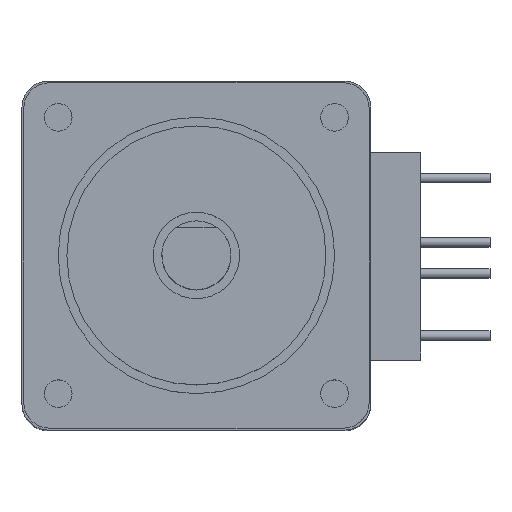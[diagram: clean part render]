
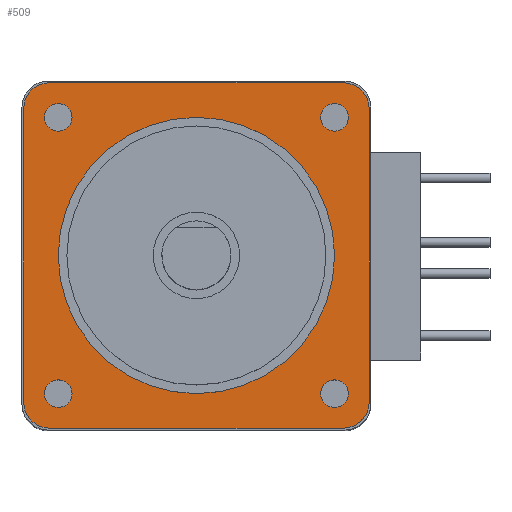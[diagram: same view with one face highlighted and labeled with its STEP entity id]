
A CAD part, top view. The second image highlights one B-rep face of the part: STEP entity #509.
In plain terms, the highlighted planar face has unit normal (0, 0, 1).
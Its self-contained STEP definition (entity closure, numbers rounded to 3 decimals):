
#200=PLANE('',#3386);
#509=ADVANCED_FACE('',(#721,#722,#723,#724,#725,#726),#200,.F.);
#721=FACE_BOUND('',#832,.T.);
#722=FACE_BOUND('',#833,.T.);
#723=FACE_BOUND('',#834,.T.);
#724=FACE_BOUND('',#835,.T.);
#725=FACE_BOUND('',#836,.T.);
#726=FACE_BOUND('',#837,.T.);
#832=EDGE_LOOP('',(#1250));
#833=EDGE_LOOP('',(#1251));
#834=EDGE_LOOP('',(#1252));
#835=EDGE_LOOP('',(#1253));
#836=EDGE_LOOP('',(#1254,#1255,#1256,#1257,#1258,#1259,#1260,#1261));
#837=EDGE_LOOP('',(#1262));
#1045=CIRCLE('',#3354,1.5);
#1047=CIRCLE('',#3359,1.5);
#1056=CIRCLE('',#3375,8.);
#1058=CIRCLE('',#3380,0.8);
#1059=CIRCLE('',#3381,0.8);
#1060=CIRCLE('',#3382,0.8);
#1061=CIRCLE('',#3383,0.8);
#1062=CIRCLE('',#3384,1.5);
#1063=CIRCLE('',#3385,1.5);
#1250=ORIENTED_EDGE('',*,*,#2399,.T.);
#1251=ORIENTED_EDGE('',*,*,#2400,.T.);
#1252=ORIENTED_EDGE('',*,*,#2401,.T.);
#1253=ORIENTED_EDGE('',*,*,#2402,.T.);
#1254=ORIENTED_EDGE('',*,*,#2289,.F.);
#1255=ORIENTED_EDGE('',*,*,#2371,.T.);
#1256=ORIENTED_EDGE('',*,*,#2377,.F.);
#1257=ORIENTED_EDGE('',*,*,#2403,.T.);
#1258=ORIENTED_EDGE('',*,*,#2384,.F.);
#1259=ORIENTED_EDGE('',*,*,#2388,.T.);
#1260=ORIENTED_EDGE('',*,*,#2364,.F.);
#1261=ORIENTED_EDGE('',*,*,#2404,.T.);
#1262=ORIENTED_EDGE('',*,*,#2397,.T.);
#1983=VERTEX_POINT('',#4457);
#1984=VERTEX_POINT('',#4459);
#2057=VERTEX_POINT('',#4623);
#2058=VERTEX_POINT('',#4625);
#2062=VERTEX_POINT('',#4636);
#2068=VERTEX_POINT('',#4649);
#2073=VERTEX_POINT('',#4662);
#2074=VERTEX_POINT('',#4664);
#2084=VERTEX_POINT('',#4695);
#2086=VERTEX_POINT('',#4702);
#2087=VERTEX_POINT('',#4704);
#2088=VERTEX_POINT('',#4706);
#2089=VERTEX_POINT('',#4708);
#2289=EDGE_CURVE('',#1983,#1984,#2719,.T.);
#2364=EDGE_CURVE('',#2057,#2058,#2773,.T.);
#2371=EDGE_CURVE('',#1983,#2062,#1045,.T.);
#2377=EDGE_CURVE('',#2068,#2062,#2783,.T.);
#2384=EDGE_CURVE('',#2073,#2074,#2790,.T.);
#2388=EDGE_CURVE('',#2073,#2058,#1047,.T.);
#2397=EDGE_CURVE('',#2084,#2084,#1056,.T.);
#2399=EDGE_CURVE('',#2086,#2086,#1058,.T.);
#2400=EDGE_CURVE('',#2087,#2087,#1059,.T.);
#2401=EDGE_CURVE('',#2088,#2088,#1060,.T.);
#2402=EDGE_CURVE('',#2089,#2089,#1061,.T.);
#2403=EDGE_CURVE('',#2068,#2074,#1062,.T.);
#2404=EDGE_CURVE('',#2057,#1984,#1063,.T.);
#2719=LINE('',#4458,#3016);
#2773=LINE('',#4624,#3070);
#2783=LINE('',#4650,#3080);
#2790=LINE('',#4663,#3087);
#3016=VECTOR('',#3607,1.);
#3070=VECTOR('',#3737,1.);
#3080=VECTOR('',#3757,1.);
#3087=VECTOR('',#3766,1.);
#3354=AXIS2_PLACEMENT_3D('',#4637,#3748,#3749);
#3359=AXIS2_PLACEMENT_3D('',#4670,#3773,#3774);
#3375=AXIS2_PLACEMENT_3D('',#4694,#3805,#3806);
#3380=AXIS2_PLACEMENT_3D('',#4701,#3815,#3816);
#3381=AXIS2_PLACEMENT_3D('',#4703,#3817,#3818);
#3382=AXIS2_PLACEMENT_3D('',#4705,#3819,#3820);
#3383=AXIS2_PLACEMENT_3D('',#4707,#3821,#3822);
#3384=AXIS2_PLACEMENT_3D('',#4709,#3823,#3824);
#3385=AXIS2_PLACEMENT_3D('',#4710,#3825,#3826);
#3386=AXIS2_PLACEMENT_3D('',#4711,#3827,#3828);
#3607=DIRECTION('',(0.,-1.,0.));
#3737=DIRECTION('',(-1.,0.,0.));
#3748=DIRECTION('',(0.,0.,1.));
#3749=DIRECTION('',(-1.,0.,0.));
#3757=DIRECTION('',(1.,0.,0.));
#3766=DIRECTION('',(0.,1.,0.));
#3773=DIRECTION('',(0.,0.,1.));
#3774=DIRECTION('',(-1.,0.,0.));
#3805=DIRECTION('',(0.,0.,-1.));
#3806=DIRECTION('',(1.,0.,0.));
#3815=DIRECTION('',(0.,0.,-1.));
#3816=DIRECTION('',(-1.,0.,0.));
#3817=DIRECTION('',(0.,0.,-1.));
#3818=DIRECTION('',(-1.,0.,0.));
#3819=DIRECTION('',(0.,0.,-1.));
#3820=DIRECTION('',(-1.,0.,0.));
#3821=DIRECTION('',(0.,0.,-1.));
#3822=DIRECTION('',(-1.,0.,0.));
#3823=DIRECTION('',(0.,0.,1.));
#3824=DIRECTION('',(-1.,0.,0.));
#3825=DIRECTION('',(0.,0.,1.));
#3826=DIRECTION('',(-1.,0.,0.));
#3827=DIRECTION('',(0.,0.,-1.));
#3828=DIRECTION('',(-1.,0.,0.));
#4457=CARTESIAN_POINT('',(10.,8.5,0.));
#4458=CARTESIAN_POINT('',(10.,10.,0.));
#4459=CARTESIAN_POINT('',(10.,-8.5,0.));
#4623=CARTESIAN_POINT('',(8.5,-10.,0.));
#4624=CARTESIAN_POINT('',(10.,-10.,0.));
#4625=CARTESIAN_POINT('',(-8.5,-10.,0.));
#4636=CARTESIAN_POINT('',(8.5,10.,0.));
#4637=CARTESIAN_POINT('',(8.5,8.5,0.));
#4649=CARTESIAN_POINT('',(-8.5,10.,0.));
#4650=CARTESIAN_POINT('',(-10.,10.,0.));
#4662=CARTESIAN_POINT('',(-10.,-8.5,0.));
#4663=CARTESIAN_POINT('',(-10.,-10.,0.));
#4664=CARTESIAN_POINT('',(-10.,8.5,0.));
#4670=CARTESIAN_POINT('',(-8.5,-8.5,0.));
#4694=CARTESIAN_POINT('',(0.,0.,0.));
#4695=CARTESIAN_POINT('',(8.,0.,0.));
#4701=CARTESIAN_POINT('',(8.,8.,0.));
#4702=CARTESIAN_POINT('',(7.2,8.,0.));
#4703=CARTESIAN_POINT('',(8.,-8.,0.));
#4704=CARTESIAN_POINT('',(7.2,-8.,0.));
#4705=CARTESIAN_POINT('',(-8.,8.,0.));
#4706=CARTESIAN_POINT('',(-8.8,8.,0.));
#4707=CARTESIAN_POINT('',(-8.,-8.,0.));
#4708=CARTESIAN_POINT('',(-8.8,-8.,0.));
#4709=CARTESIAN_POINT('',(-8.5,8.5,0.));
#4710=CARTESIAN_POINT('',(8.5,-8.5,0.));
#4711=CARTESIAN_POINT('',(-10.,10.,0.));
